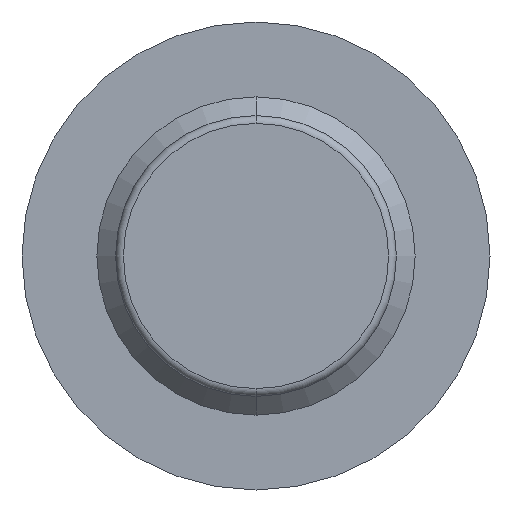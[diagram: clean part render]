
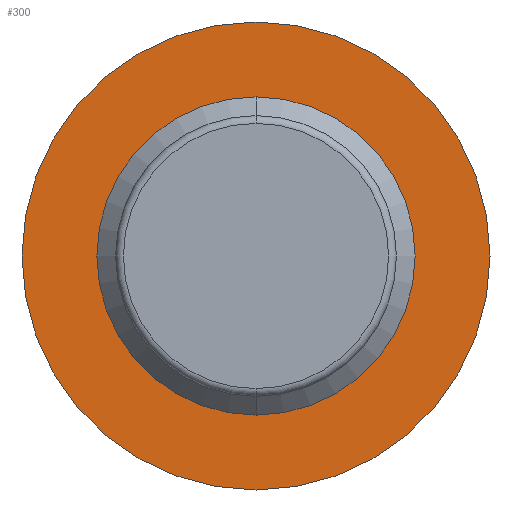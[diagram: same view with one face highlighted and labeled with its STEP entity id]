
A CAD part, front view. The second image highlights one B-rep face of the part: STEP entity #300.
In plain terms, the highlighted planar face has unit normal (0, -1, 0).
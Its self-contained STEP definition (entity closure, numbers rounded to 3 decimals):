
#11=CARTESIAN_POINT('',(0.,4.1,0.));
#12=DIRECTION('',(0.,1.,0.));
#13=DIRECTION('',(0.,0.,-1.));
#14=AXIS2_PLACEMENT_3D('',#11,#12,#13);
#20=CARTESIAN_POINT('',(0.,4.1,0.));
#21=DIRECTION('',(0.,-1.,0.));
#22=DIRECTION('',(0.,0.,-1.));
#23=AXIS2_PLACEMENT_3D('',#20,#21,#22);
#29=CARTESIAN_POINT('',(0.,4.1,0.));
#30=DIRECTION('',(0.,1.,0.));
#31=DIRECTION('',(0.,0.,-1.));
#32=AXIS2_PLACEMENT_3D('',#29,#30,#31);
#34=CARTESIAN_POINT('',(0.,4.1,0.));
#35=DIRECTION('',(0.,-1.,0.));
#36=DIRECTION('',(0.,0.,-1.));
#37=AXIS2_PLACEMENT_3D('',#34,#35,#36);
#209=CARTESIAN_POINT('',(0.,4.1,-1.02));
#210=VERTEX_POINT('',#209);
#211=CARTESIAN_POINT('',(0.,4.1,-1.5));
#213=VERTEX_POINT('',#211);
#233=CARTESIAN_POINT('',(0.,4.1,1.02));
#234=VERTEX_POINT('',#233);
#235=CARTESIAN_POINT('',(0.,4.1,1.5));
#237=VERTEX_POINT('',#235);
#285=CARTESIAN_POINT('',(0.,4.1,0.));
#286=DIRECTION('',(0.,1.,0.));
#287=DIRECTION('',(0.,0.,-1.));
#288=AXIS2_PLACEMENT_3D('',#285,#286,#287);
#289=PLANE('',#288);
#290=ORIENTED_EDGE('',*,*,#278,.F.);
#291=ORIENTED_EDGE('',*,*,#267,.T.);
#292=EDGE_LOOP('',(#290,#291));
#293=FACE_OUTER_BOUND('',#292,.F.);
#295=ORIENTED_EDGE('',*,*,#294,.F.);
#297=ORIENTED_EDGE('',*,*,#296,.T.);
#298=EDGE_LOOP('',(#295,#297));
#299=FACE_BOUND('',#298,.F.);
#300=ADVANCED_FACE('',(#293,#299),#289,.F.);
#15=CIRCLE('',#14,1.5);
#24=CIRCLE('',#23,1.5);
#33=CIRCLE('',#32,1.02);
#38=CIRCLE('',#37,1.02);
#267=EDGE_CURVE('',#213,#237,#15,.T.);
#278=EDGE_CURVE('',#213,#237,#24,.T.);
#294=EDGE_CURVE('',#210,#234,#33,.T.);
#296=EDGE_CURVE('',#210,#234,#38,.T.);
